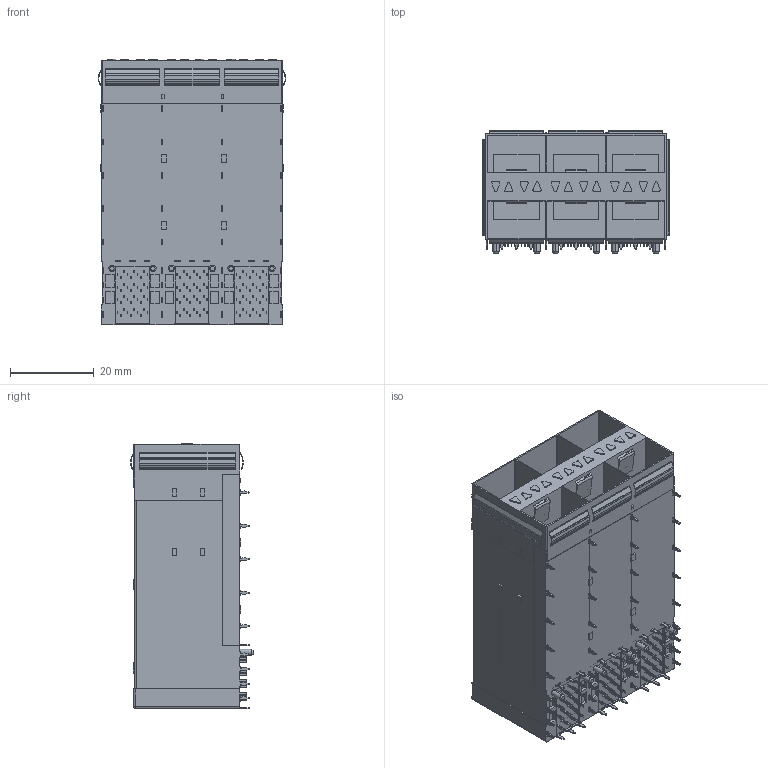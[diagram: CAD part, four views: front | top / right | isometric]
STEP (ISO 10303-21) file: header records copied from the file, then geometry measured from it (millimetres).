
FILE_DESCRIPTION (( 'STEP AP214' ), '1' );
FILE_NAME ('SFP28 2X3 内外导光柱.STEP', '2025-03-20T08:30:30', ( '桑三博客' ), ( 'Www.SangSan.Cn' ), 'SwSTEP 2.0', 'SolidWorks 2018', '' );
FILE_SCHEMA (( 'AUTOMOTIVE_DESIGN' ));
Length unit declared in the file: millimetre
Products named in the file (1): SFP28 2X3 囀俋絳嫖翐
Bounding box: 44.81 x 29.38 x 63.5 mm (x, y, z)
Volume: 35227.4 mm3; surface area: 26784.5 mm2
Topology: 1 solids, 1 shells, 2372 faces, 6633 edges, 4484 vertices
Faces by surface type: plane 1617, cylinder 741, cone 12, sphere 2
Entity records: 76371 total; most frequent: CARTESIAN_POINT 13488, ORIENTED_EDGE 13262, DIRECTION 12875, EDGE_CURVE 6631, LINE 5133, VECTOR 5133, VERTEX_POINT 4484, AXIS2_PLACEMENT_3D 3871
